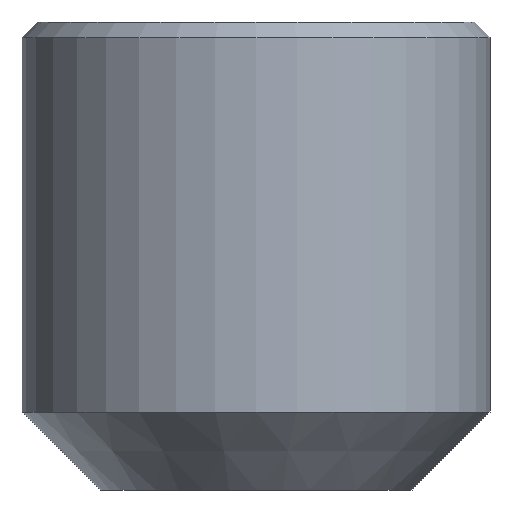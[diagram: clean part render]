
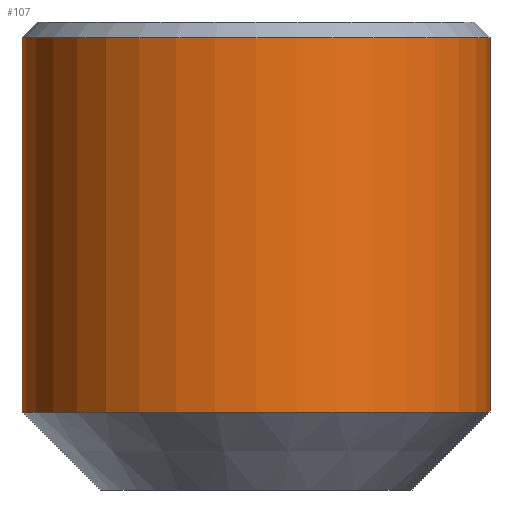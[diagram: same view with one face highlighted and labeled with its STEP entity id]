
A CAD part, front view. The second image highlights one B-rep face of the part: STEP entity #107.
In plain terms, the highlighted cylindrical face has radius 3 mm (diameter 6 mm), a full revolution.
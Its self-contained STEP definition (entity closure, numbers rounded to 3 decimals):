
#19=CYLINDRICAL_SURFACE('',#139,3.);
#23=FACE_OUTER_BOUND('',#30,.T.);
#30=EDGE_LOOP('',(#87,#88,#89,#90,#91,#92));
#38=LINE('',#203,#43);
#43=VECTOR('',#169,3.);
#48=CIRCLE('',#137,3.);
#49=CIRCLE('',#138,3.);
#50=CIRCLE('',#140,3.);
#51=CIRCLE('',#141,3.);
#57=VERTEX_POINT('',#196);
#58=VERTEX_POINT('',#198);
#59=VERTEX_POINT('',#202);
#60=VERTEX_POINT('',#204);
#68=EDGE_CURVE('',#57,#58,#48,.T.);
#69=EDGE_CURVE('',#58,#57,#49,.T.);
#70=EDGE_CURVE('',#58,#59,#38,.T.);
#71=EDGE_CURVE('',#60,#59,#50,.T.);
#72=EDGE_CURVE('',#59,#60,#51,.T.);
#87=ORIENTED_EDGE('',*,*,#68,.F.);
#88=ORIENTED_EDGE('',*,*,#69,.F.);
#89=ORIENTED_EDGE('',*,*,#70,.T.);
#90=ORIENTED_EDGE('',*,*,#71,.F.);
#91=ORIENTED_EDGE('',*,*,#72,.F.);
#92=ORIENTED_EDGE('',*,*,#70,.F.);
#107=ADVANCED_FACE('',(#23),#19,.T.);
#137=AXIS2_PLACEMENT_3D('',#199,#163,#164);
#138=AXIS2_PLACEMENT_3D('',#200,#165,#166);
#139=AXIS2_PLACEMENT_3D('',#201,#167,#168);
#140=AXIS2_PLACEMENT_3D('',#205,#170,#171);
#141=AXIS2_PLACEMENT_3D('',#206,#172,#173);
#163=DIRECTION('center_axis',(0.,0.,-1.));
#164=DIRECTION('ref_axis',(0.,-1.,0.));
#165=DIRECTION('center_axis',(0.,0.,-1.));
#166=DIRECTION('ref_axis',(0.,-1.,0.));
#167=DIRECTION('center_axis',(0.,0.,-1.));
#168=DIRECTION('ref_axis',(0.,1.,0.));
#169=DIRECTION('',(0.,0.,1.));
#170=DIRECTION('center_axis',(0.,0.,1.));
#171=DIRECTION('ref_axis',(0.,-1.,0.));
#172=DIRECTION('center_axis',(0.,0.,1.));
#173=DIRECTION('ref_axis',(0.,-1.,0.));
#196=CARTESIAN_POINT('',(0.,3.,-2.));
#198=CARTESIAN_POINT('',(0.,-3.,-2.));
#199=CARTESIAN_POINT('Origin',(0.,0.,-2.));
#200=CARTESIAN_POINT('Origin',(0.,0.,-2.));
#201=CARTESIAN_POINT('Origin',(0.,0.,0.));
#202=CARTESIAN_POINT('',(0.,-3.,2.8));
#203=CARTESIAN_POINT('',(0.,-3.,0.));
#204=CARTESIAN_POINT('',(0.,3.,2.8));
#205=CARTESIAN_POINT('Origin',(0.,0.,2.8));
#206=CARTESIAN_POINT('Origin',(0.,0.,2.8));
